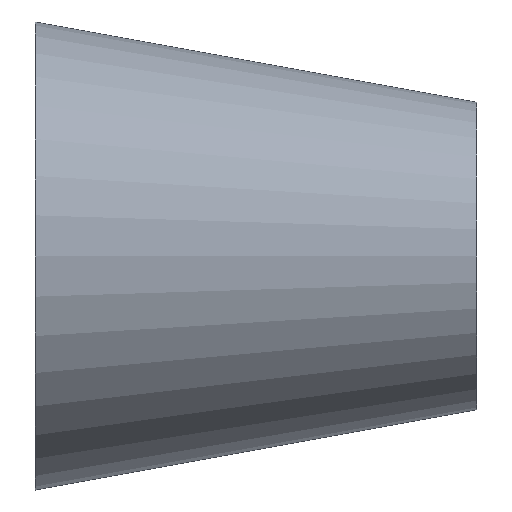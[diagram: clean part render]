
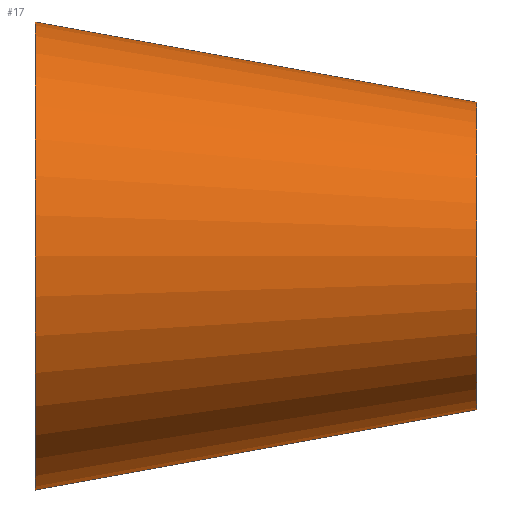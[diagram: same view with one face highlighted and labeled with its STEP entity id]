
A CAD part, front view. The second image highlights one B-rep face of the part: STEP entity #17.
In plain terms, the highlighted free-form (B-spline) face has degree [14, 1] with [15, 2] control points.
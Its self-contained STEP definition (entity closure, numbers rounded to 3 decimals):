
#17 = ADVANCED_FACE('',(#18),#31,.T.);
#18 = FACE_BOUND('',#19,.T.);
#19 = EDGE_LOOP('',(#20,#80,#102,#129));
#20 = ORIENTED_EDGE('',*,*,#21,.T.);
#21 = EDGE_CURVE('',#22,#22,#24,.T.);
#22 = VERTEX_POINT('',#23);
#23 = CARTESIAN_POINT('',(0.,17.5,0.));
#24 = SURFACE_CURVE('',#25,(#30,#68),.PCURVE_S1.);
#25 = CIRCLE('',#26,17.5);
#26 = AXIS2_PLACEMENT_3D('',#27,#28,#29);
#27 = CARTESIAN_POINT('',(0.,0.,0.));
#28 = DIRECTION('',(1.,0.,0.));
#29 = DIRECTION('',(0.,1.,0.));
#30 = PCURVE('',#31,#62);
#31 = B_SPLINE_SURFACE_WITH_KNOTS('',14,1,(
    (#32,#33)
    ,(#34,#35)
    ,(#36,#37)
    ,(#38,#39)
    ,(#40,#41)
    ,(#42,#43)
    ,(#44,#45)
    ,(#46,#47)
    ,(#48,#49)
    ,(#50,#51)
    ,(#52,#53)
    ,(#54,#55)
    ,(#56,#57)
    ,(#58,#59)
    ,(#60,#61
    )),.UNSPECIFIED.,.T.,.F.,.F.,(15,15),(2,2),(0.,6.283),(0.,1.
    ),.PIECEWISE_BEZIER_KNOTS.);
#32 = CARTESIAN_POINT('',(0.,17.5,0.));
#33 = CARTESIAN_POINT('',(33.,5.5,0.));
#34 = CARTESIAN_POINT('',(0.,17.5,7.854));
#35 = CARTESIAN_POINT('',(33.,5.5,5.161)
  );
#36 = CARTESIAN_POINT('',(0.,13.704,15.708));
#37 = CARTESIAN_POINT('',(33.,3.005,10.322
    ));
#38 = CARTESIAN_POINT('',(0.,6.112,21.574));
#39 = CARTESIAN_POINT('',(33.,-1.984,14.177
    ));
#40 = CARTESIAN_POINT('',(0.,-4.141,23.466));
#41 = CARTESIAN_POINT('',(33.,-8.721,
    15.42));
#42 = CARTESIAN_POINT('',(0.,-14.784,20.107));
#43 = CARTESIAN_POINT('',(33.,-15.715,
    13.213));
#44 = CARTESIAN_POINT('',(0.,-22.908,11.653));
#45 = CARTESIAN_POINT('',(33.,-21.054,7.658
    ));
#46 = CARTESIAN_POINT('',(0.,-25.967,0.));
#47 = CARTESIAN_POINT('',(33.,-23.064,
    0.));
#48 = CARTESIAN_POINT('',(0.,-22.908,-11.653));
#49 = CARTESIAN_POINT('',(33.,-21.054,
    -7.658));
#50 = CARTESIAN_POINT('',(0.,-14.784,-20.107));
#51 = CARTESIAN_POINT('',(33.,-15.715,
    -13.213));
#52 = CARTESIAN_POINT('',(0.,-4.141,-23.466));
#53 = CARTESIAN_POINT('',(33.,-8.721,
    -15.42));
#54 = CARTESIAN_POINT('',(0.,6.112,-21.574));
#55 = CARTESIAN_POINT('',(33.,-1.984,-14.177
    ));
#56 = CARTESIAN_POINT('',(0.,13.704,-15.708));
#57 = CARTESIAN_POINT('',(33.,3.005,-10.322
    ));
#58 = CARTESIAN_POINT('',(0.,17.5,-7.854));
#59 = CARTESIAN_POINT('',(33.,5.5,-5.161));
#60 = CARTESIAN_POINT('',(0.,17.5,0.));
#61 = CARTESIAN_POINT('',(33.,5.5,0.));
#62 = DEFINITIONAL_REPRESENTATION('',(#63),#67);
#63 = LINE('',#64,#65);
#64 = CARTESIAN_POINT('',(0.,0.));
#65 = VECTOR('',#66,1.);
#66 = DIRECTION('',(1.,0.));
#67 = ( GEOMETRIC_REPRESENTATION_CONTEXT(2) 
PARAMETRIC_REPRESENTATION_CONTEXT() REPRESENTATION_CONTEXT('2D SPACE',''
  ) );
#68 = PCURVE('',#69,#74);
#69 = PLANE('',#70);
#70 = AXIS2_PLACEMENT_3D('',#71,#72,#73);
#71 = CARTESIAN_POINT('',(0.,0.,0.));
#72 = DIRECTION('',(1.,0.,0.));
#73 = DIRECTION('',(0.,1.,0.));
#74 = DEFINITIONAL_REPRESENTATION('',(#75),#79);
#75 = CIRCLE('',#76,17.5);
#76 = AXIS2_PLACEMENT_2D('',#77,#78);
#77 = CARTESIAN_POINT('',(0.,0.));
#78 = DIRECTION('',(1.,0.));
#79 = ( GEOMETRIC_REPRESENTATION_CONTEXT(2) 
PARAMETRIC_REPRESENTATION_CONTEXT() REPRESENTATION_CONTEXT('2D SPACE',''
  ) );
#80 = ORIENTED_EDGE('',*,*,#81,.T.);
#81 = EDGE_CURVE('',#22,#82,#84,.T.);
#82 = VERTEX_POINT('',#83);
#83 = CARTESIAN_POINT('',(33.,5.5,0.));
#84 = SEAM_CURVE('',#85,(#88,#95),.PCURVE_S1.);
#85 = B_SPLINE_CURVE_WITH_KNOTS('',1,(#86,#87),.UNSPECIFIED.,.F.,.F.,(2,
    2),(0.,1.),.PIECEWISE_BEZIER_KNOTS.);
#86 = CARTESIAN_POINT('',(0.,17.5,0.));
#87 = CARTESIAN_POINT('',(33.,5.5,0.));
#88 = PCURVE('',#31,#89);
#89 = DEFINITIONAL_REPRESENTATION('',(#90),#94);
#90 = LINE('',#91,#92);
#91 = CARTESIAN_POINT('',(6.283,0.));
#92 = VECTOR('',#93,1.);
#93 = DIRECTION('',(0.,1.));
#94 = ( GEOMETRIC_REPRESENTATION_CONTEXT(2) 
PARAMETRIC_REPRESENTATION_CONTEXT() REPRESENTATION_CONTEXT('2D SPACE',''
  ) );
#95 = PCURVE('',#31,#96);
#96 = DEFINITIONAL_REPRESENTATION('',(#97),#101);
#97 = LINE('',#98,#99);
#98 = CARTESIAN_POINT('',(0.,0.));
#99 = VECTOR('',#100,1.);
#100 = DIRECTION('',(0.,1.));
#101 = ( GEOMETRIC_REPRESENTATION_CONTEXT(2) 
PARAMETRIC_REPRESENTATION_CONTEXT() REPRESENTATION_CONTEXT('2D SPACE',''
  ) );
#102 = ORIENTED_EDGE('',*,*,#103,.F.);
#103 = EDGE_CURVE('',#82,#82,#104,.T.);
#104 = SURFACE_CURVE('',#105,(#110,#117),.PCURVE_S1.);
#105 = CIRCLE('',#106,11.5);
#106 = AXIS2_PLACEMENT_3D('',#107,#108,#109);
#107 = CARTESIAN_POINT('',(33.,-6.,0.));
#108 = DIRECTION('',(1.,0.,0.));
#109 = DIRECTION('',(0.,1.,0.));
#110 = PCURVE('',#31,#111);
#111 = DEFINITIONAL_REPRESENTATION('',(#112),#116);
#112 = LINE('',#113,#114);
#113 = CARTESIAN_POINT('',(0.,1.));
#114 = VECTOR('',#115,1.);
#115 = DIRECTION('',(1.,0.));
#116 = ( GEOMETRIC_REPRESENTATION_CONTEXT(2) 
PARAMETRIC_REPRESENTATION_CONTEXT() REPRESENTATION_CONTEXT('2D SPACE',''
  ) );
#117 = PCURVE('',#118,#123);
#118 = PLANE('',#119);
#119 = AXIS2_PLACEMENT_3D('',#120,#121,#122);
#120 = CARTESIAN_POINT('',(33.,-6.,0.));
#121 = DIRECTION('',(1.,0.,0.));
#122 = DIRECTION('',(0.,1.,0.));
#123 = DEFINITIONAL_REPRESENTATION('',(#124),#128);
#124 = CIRCLE('',#125,11.5);
#125 = AXIS2_PLACEMENT_2D('',#126,#127);
#126 = CARTESIAN_POINT('',(0.,0.));
#127 = DIRECTION('',(1.,0.));
#128 = ( GEOMETRIC_REPRESENTATION_CONTEXT(2) 
PARAMETRIC_REPRESENTATION_CONTEXT() REPRESENTATION_CONTEXT('2D SPACE',''
  ) );
#129 = ORIENTED_EDGE('',*,*,#81,.F.);
